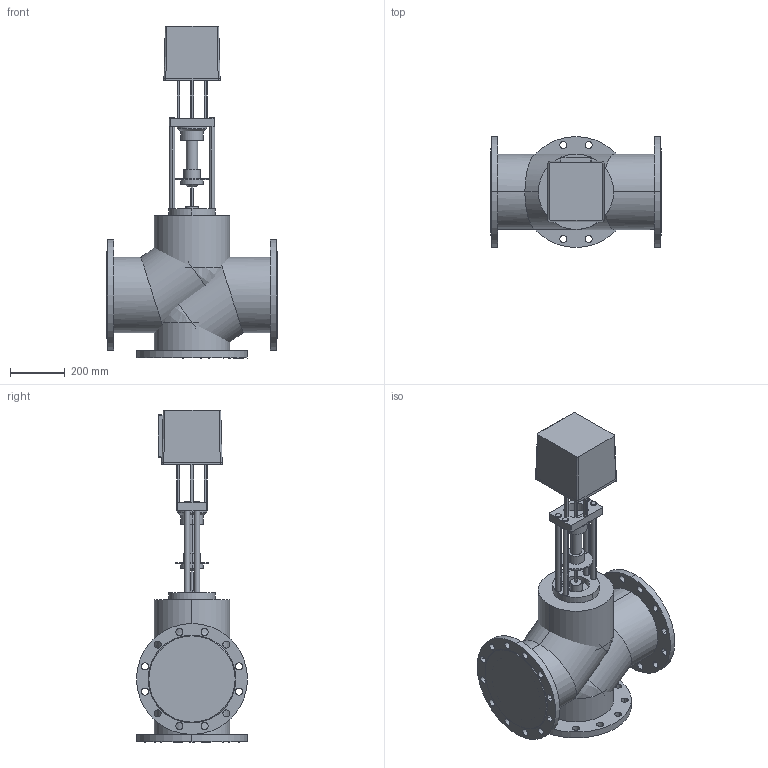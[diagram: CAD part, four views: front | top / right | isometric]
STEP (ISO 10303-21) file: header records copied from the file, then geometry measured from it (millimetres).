
FILE_DESCRIPTION(/* description */ (''),/* implementation_level */ '2;1');
FILE_NAME(/* name */ 'ТРК DN250 PN 1.6 МПа LEA 26000',/* time_stamp */ '2026-07-14T23:07:49+03:00',/* author */ (''),/* organization */ (''),/* preprocessor_version */ 'ST-DEVELOPER v20',/* originating_system */ '',/* authorisation */ '');
FILE_SCHEMA (('AP242_MANAGED_MODEL_BASED_3D_ENGINEERING_MIM_LF { 1 0 10303 442 1 1 4 }'));
Length unit declared in the file: millimetre
Products named in the file (13): TopLevelAssembly; Выдавливание; Модификатор; Модификатор_1; Выдавливание_
1; Выдавливание_
2; Вращение; Выдавливание_
3; Выдавливание_
4; 1600; Переход; Объемная геометрия 
присоединена; Объемная геометрия 
присоединена_1
Assembly tree (12 placements, depth 2):
  TopLevelAssembly
    Выдавливание
    Модификатор
    Модификатор_1
    Выдавливание_
1
    Выдавливание_
2
    Вращение
    Выдавливание_
3
    Выдавливание_
4
    1600
    Переход
    Объемная геометрия 
присоединена
    Объемная геометрия 
присоединена_1
Bounding box: 622 x 405 x 1212 mm (x, y, z)
Volume: 93443405.6 mm3; surface area: 3317257.9 mm2
Topology: 20 solids, 20 shells, 262 faces, 617 edges, 398 vertices
Faces by surface type: cylinder 158, plane 88, bspline 12, cone 4
Entity records: 8449 total; most frequent: CARTESIAN_POINT 1518, DIRECTION 1506, ORIENTED_EDGE 1218, AXIS2_PLACEMENT_3D 622, EDGE_CURVE 609, VERTEX_POINT 398, EDGE_LOOP 353, CIRCLE 335
